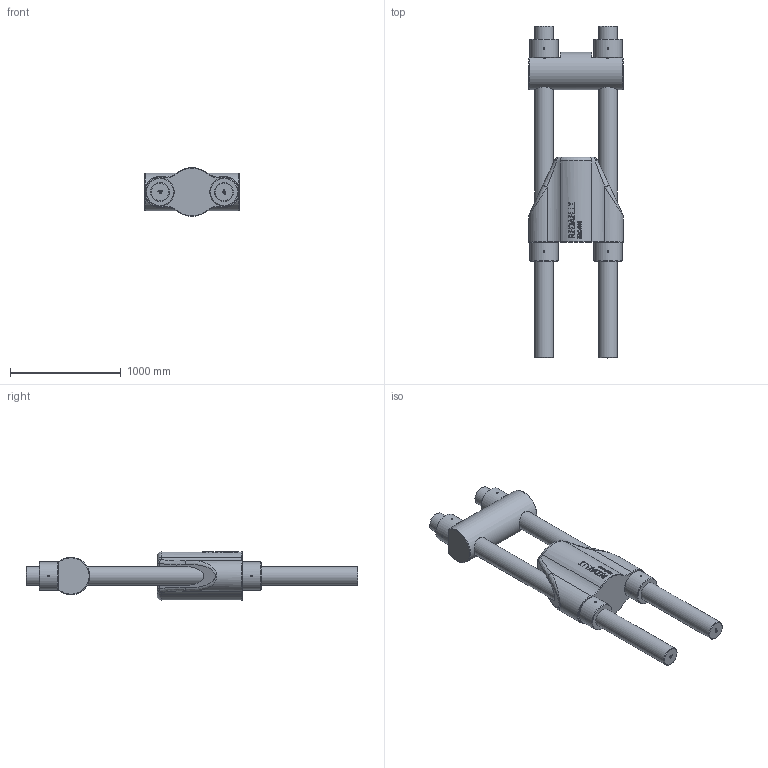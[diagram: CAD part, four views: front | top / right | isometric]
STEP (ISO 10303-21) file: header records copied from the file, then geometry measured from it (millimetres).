
FILE_DESCRIPTION(/* description */ (''),/* implementation_level */ '2;1');
FILE_NAME(/* name */ 'D:\Clienti\Redaelli (inventor)\BRC\STEP\Arrangemet\BRC140 72 111 0.stp',/* time_stamp */ '2021-05-08T08:47:39+02:00',/* author */ ('fabri'),/* organization */ (''),/* preprocessor_version */ 'ST-DEVELOPER v16.13',/* originating_system */ 'Autodesk Inventor 2018',/* authorisation */ '');
FILE_SCHEMA (('AUTOMOTIVE_DESIGN { 1 0 10303 214 3 1 1 }'));
Length unit declared in the file: millimetre
Products named in the file (5): BRC020 72 111 0; BRC020 71 112 0; BRC020 71 114 0_ROD; BRC020 71 113 0; BRC020 71 114 0_NUT
Assembly tree (8 placements, depth 2):
  BRC020 72 111 0
    BRC020 71 112 0
    BRC020 71 114 0_ROD  x2
    BRC020 71 113 0
    BRC020 71 114 0_NUT  x4
Bounding box: 858 x 3000 x 439.1 mm (x, y, z)
Volume: 359107227.8 mm3; surface area: 7967066 mm2
Topology: 8 solids, 8 shells, 1460 faces, 3902 edges, 2590 vertices
Faces by surface type: plane 813, bspline 523, cylinder 70, cone 30, torus 20, sphere 4
Full cylindrical faces by diameter (mm): 15 x16, 163.505 x4, 170 x2, 177 x4, 255 x4, 338 x1
Entity records: 28867 total; most frequent: CARTESIAN_POINT 10491, ORIENTED_EDGE 4250, DIRECTION 2789, EDGE_CURVE 2125, VERTEX_POINT 1416, LINE 1279, VECTOR 1279, EDGE_LOOP 917
